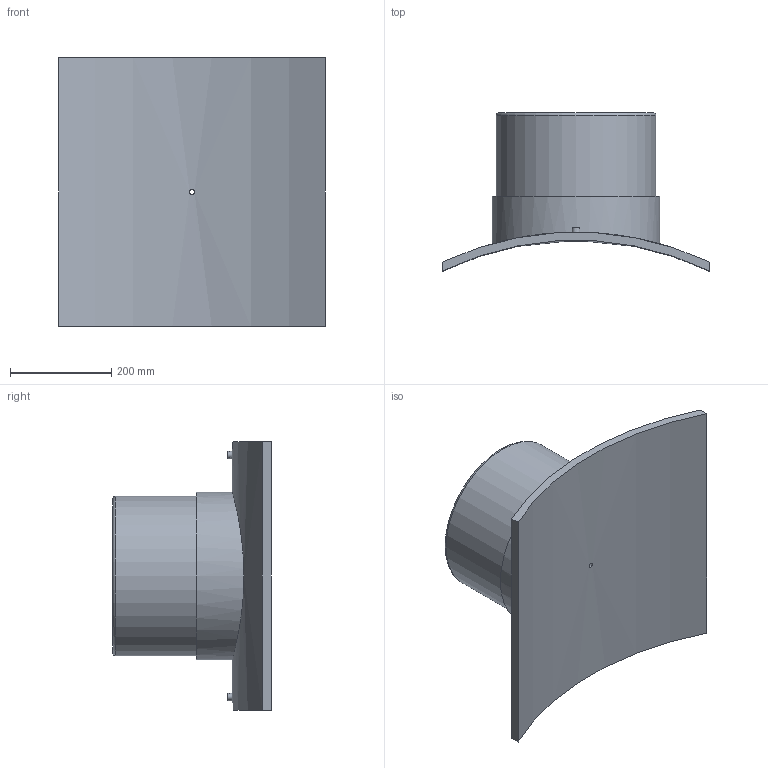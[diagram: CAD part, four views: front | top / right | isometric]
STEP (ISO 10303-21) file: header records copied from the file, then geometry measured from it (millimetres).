
FILE_DESCRIPTION(/* description */ ('PLASSON BRANCH SADDLE 1200x315'),/* implementation_level */ '2;1');
FILE_NAME(/* name */ 'C:\Dropbox\99-16-3568-Processing\ElectroFusion Fittings\495803\4958031200315T.ipt.stp',/* time_stamp */ '2021-02-25T09:43:44+02:00',/* author */ ('KIM'),/* organization */ (''),/* preprocessor_version */ 'ST-DEVELOPER v17.2',/* originating_system */ 'Autodesk Inventor 2019',/* authorisation */ '');
FILE_SCHEMA (('AUTOMOTIVE_DESIGN { 1 0 10303 214 3 1 1 }'));
Length unit declared in the file: millimetre
Products named in the file (1): 4958031200315T
Bounding box: 526 x 312.71 x 530 mm (x, y, z)
Volume: 12120757.3 mm3; surface area: 1060242.7 mm2
Topology: 1 solids, 1 shells, 29 faces, 60 edges, 43 vertices
Faces by surface type: plane 13, cylinder 12, torus 2, cone 2
Full cylindrical faces by diameter (mm): 4 x2, 9.6 x1, 10 x2, 16 x1, 252 x1, 315 x1, 330.75 x1
Entity records: 1086 total; most frequent: CARTESIAN_POINT 400, DIRECTION 139, ORIENTED_EDGE 120, EDGE_CURVE 60, AXIS2_PLACEMENT_3D 60, VERTEX_POINT 43, EDGE_LOOP 41, CIRCLE 30
